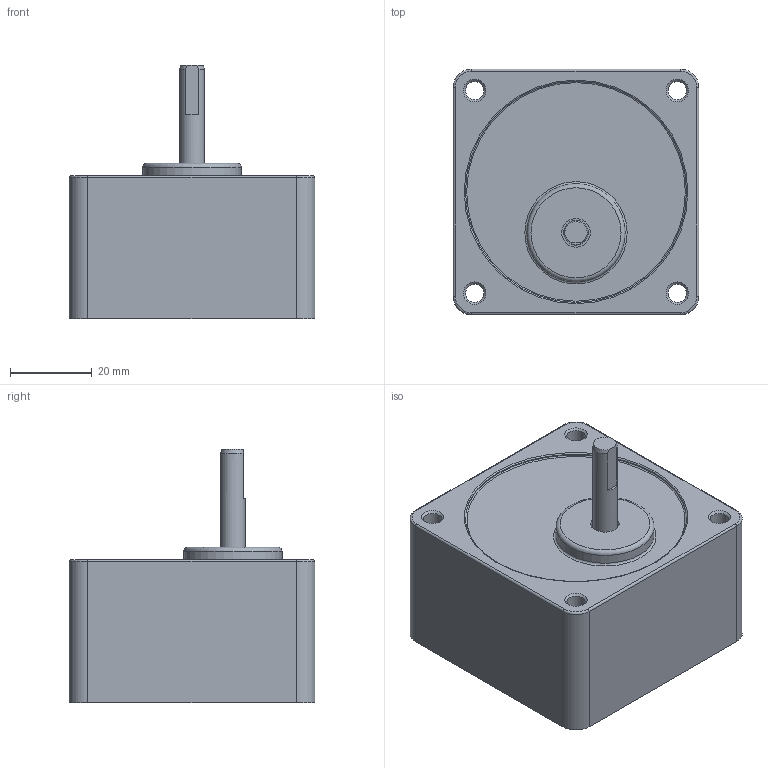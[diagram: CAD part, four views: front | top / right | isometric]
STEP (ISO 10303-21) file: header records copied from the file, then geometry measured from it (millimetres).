
FILE_DESCRIPTION((''),'2;1');
FILE_NAME('\\Spgrnd02\고객배포용도면\3D\01 Standard AC Motor\01 INDUCTION MOTOR\S6I03+S6DT\S6DT20~250.stp','2015-03-24T14:28:37',('smkim'),(''),'Autodesk Inventor 2012','Autodesk Inventor 2012','');
FILE_SCHEMA(('AUTOMOTIVE_DESIGN { 1 0 10303 214 1 1 1 1 }'));
Length unit declared in the file: millimetre
Products named in the file (1): S6DT20~250
Bounding box: 60 x 60 x 62 mm (x, y, z)
Volume: 112513.1 mm3; surface area: 19054.6 mm2
Topology: 1 solids, 1 shells, 45 faces, 95 edges, 58 vertices
Faces by surface type: cylinder 18, plane 14, torus 8, cone 5
Full cylindrical faces by diameter (mm): 4.5 x4, 6 x2, 7 x1, 24 x1, 53.997 x1, 54 x1
Entity records: 1159 total; most frequent: DIRECTION 216, CARTESIAN_POINT 183, ORIENTED_EDGE 152, AXIS2_PLACEMENT_3D 96, EDGE_LOOP 77, EDGE_CURVE 76, VERTEX_POINT 57, CIRCLE 50
